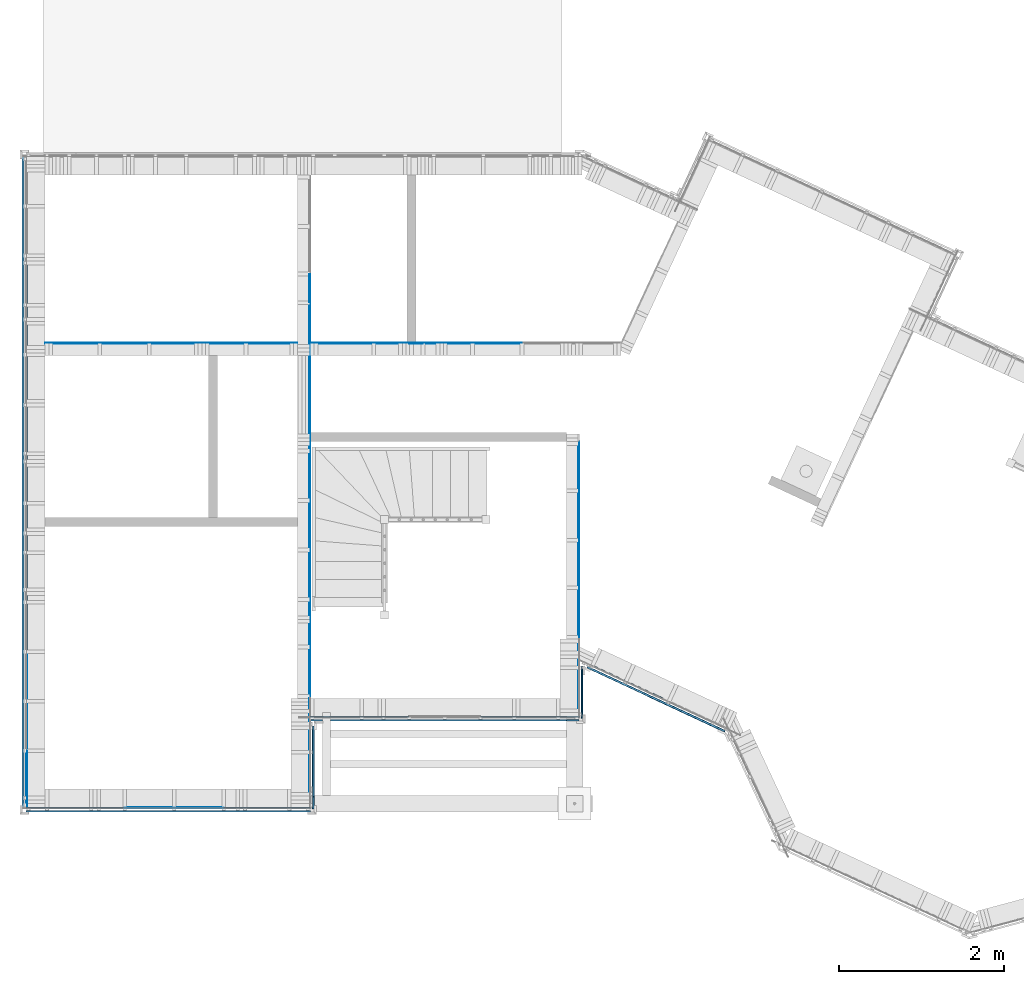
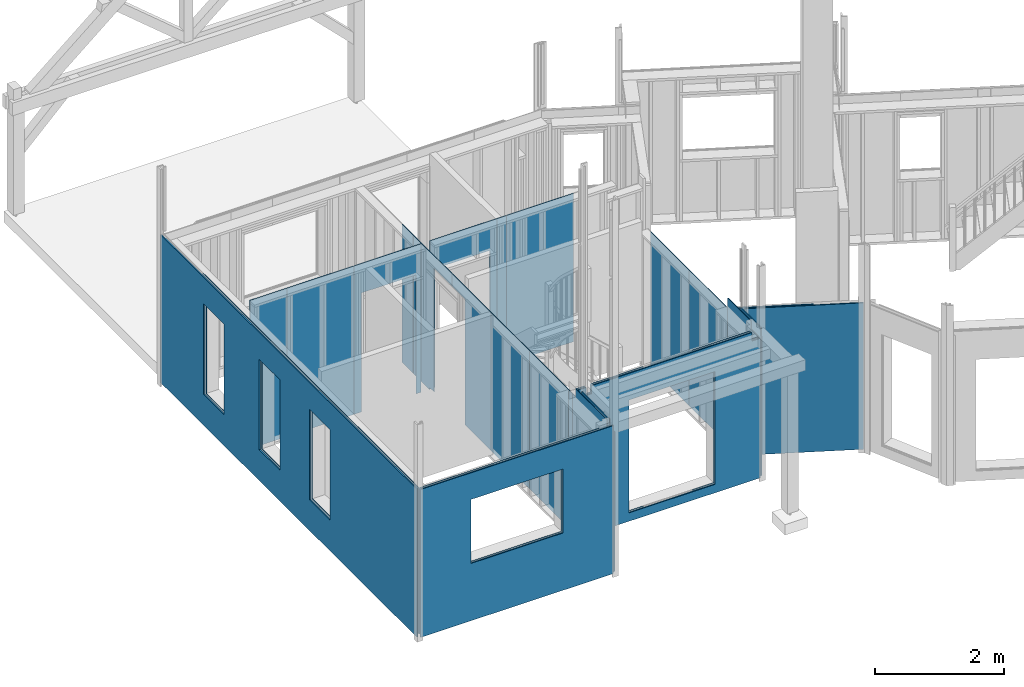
# One storey, part 23 of 34: 35 plates.
"""IFC2X3 building model written with IfcOpenShell, lengths in metres."""

from ifc_helpers import new_model, si_unit, direction, frame, origin_with_axes, place, context, subcontext, project, spatial, faceted_brep, material, element, save


model = new_model("IFC2X3")

# Units and contexts
model_context = context("Model", 3, precision=1e-06, world=origin_with_axes(), true_north=direction((0.0, 1.0, 0.0)))
body_context = subcontext(model_context, "Body", "Model", "MODEL_VIEW")
ifc_project = project(units=[si_unit("LENGTHUNIT", "METRE"), si_unit("AREAUNIT", "SQUARE_METRE"), si_unit("VOLUMEUNIT", "CUBIC_METRE"), si_unit("PLANEANGLEUNIT", "RADIAN")], contexts=[model_context])

# Site, building, storey
site_placement = place(None, origin_with_axes())
site = spatial("IfcSite", under=ifc_project, at=site_placement, CompositionType="ELEMENT")
building_placement = place(site_placement, origin_with_axes())
building = spatial("IfcBuilding", under=site, at=building_placement, Name="Building 1", CompositionType="ELEMENT")
storey_placement = place(building_placement, origin_with_axes())
storey = spatial("IfcBuildingStorey", under=building, at=storey_placement, Name="Rez de chaussée", CompositionType="ELEMENT", Elevation=0.0)

# Plates
ifc_material_1 = material(Name="OSB")
plate_1_placement = place(storey_placement, frame((6.11, 1.1068281, 0.005), z_axis=(0.0, 1.0, 0.0), x_axis=(0.0, 0.0, 1.0)))
element("IfcPlate", 1, at=plate_1_placement, inside=storey, material=ifc_material_1, Name="Panneau de contreventement MFP", context=body_context, shape_type="Brep", body=[
    faceted_brep([(2.6, 0.442, -0.006), (2.6, 0.598, -0.006), (2.6, 0.598, 0.006), (2.6, 0.442, 0.006), (2.758, 0.442, 0.006), (2.758, 0.442, -0.006), (0.0, 0.598, -0.006), (0.0, 0.598, 0.006), (2.758, -0.598, -0.006), (2.255, -0.598, -0.006), (2.255, -0.2125624, -0.006), (0.124, -0.2125624, -0.006), (0.124, -0.598, -0.006), (0.0, -0.598, -0.006), (2.758, -0.598, 0.006), (2.255, -0.598, 0.006), (2.255, -0.2125624, 0.006), (0.0, -0.598, 0.006), (0.124, -0.598, 0.006), (0.124, -0.2125624, 0.006)], [[[0, 1, 2, 3]], [[3, 4, 5, 0]], [[2, 1, 6, 7]], [[1, 0, 5, 8, 9, 10, 11, 12, 13, 6]], [[5, 4, 14, 8]], [[9, 15, 16, 10]], [[13, 17, 7, 6]], [[15, 9, 8, 14]], [[3, 2, 7, 17, 18, 19, 16, 15, 14, 4]], [[18, 12, 11, 19]], [[12, 18, 17, 13]], [[11, 10, 16, 19]]]),
])
plate_2_placement = place(storey_placement, frame((0.006, 4.898, 0.005), z_axis=(-1.0, 0.0, 0.0), x_axis=(0.0, 0.0, 1.0)))
element("IfcPlate", 2, at=plate_2_placement, inside=storey, material=ifc_material_1, Name="Panneau de contreventement MFP", context=body_context, shape_type="Brep", body=[
    faceted_brep([(0.547, -0.598, -0.006), (0.547, -0.598, 0.006), (0.0, -0.598, 0.006), (0.0, -0.598, -0.006), (0.0, 0.598, 0.006), (0.0, 0.598, -0.006), (0.547, -0.030197, 0.006), (2.255, -0.030197, 0.006), (2.255, -0.598, 0.006), (2.758, -0.598, 0.006), (2.758, 0.598, 0.006), (0.547, -0.030197, -0.006), (2.758, 0.598, -0.006), (2.758, -0.598, -0.006), (2.255, -0.598, -0.006), (2.255, -0.030197, -0.006)], [[[0, 1, 2, 3]], [[3, 2, 4, 5]], [[2, 1, 6, 7, 8, 9, 10, 4]], [[1, 0, 11, 6]], [[0, 3, 5, 12, 13, 14, 15, 11]], [[8, 14, 13, 9]], [[14, 8, 7, 15]], [[9, 13, 12, 10]], [[7, 6, 11, 15]], [[5, 4, 10, 12]]]),
])
ifc_material_2 = material(Name="Mélèze")
plate_3_placement = place(storey_placement, frame((-0.0355, 3.954, -0.03), z_axis=(-1.0, 0.0, 0.0), x_axis=(0.0, 0.0, 1.0)))
element("IfcPlate", 3, at=plate_3_placement, inside=storey, material=ifc_material_2, Name="Bardage", context=body_context, shape_type="Brep", body=[
    faceted_brep([(0.0, 3.962, 0.0105), (0.0, -3.962, 0.0105), (2.793, -3.962, 0.0105), (2.793, 3.962, 0.0105), (2.29, 1.9941735, 0.0105), (0.582, 1.9941735, 0.0105), (0.582, 2.6341735, 0.0105), (2.29, 2.6341735, 0.0105), (2.29, 0.2738031, 0.0105), (0.582, 0.2738031, 0.0105), (0.582, 0.9138031, 0.0105), (2.29, 0.9138031, 0.0105), (2.29, -1.2839436, 0.0105), (0.582, -1.2839436, 0.0105), (0.582, -0.6439436, 0.0105), (2.29, -0.6439436, 0.0105), (2.793, -3.962, -0.0105), (2.793, 3.962, -0.0105), (0.0, -3.962, -0.0105), (0.0, 3.962, -0.0105), (0.582, 2.6341735, -0.0105), (0.582, 1.9941735, -0.0105), (2.29, 1.9941735, -0.0105), (2.29, 2.6341735, -0.0105), (0.582, 0.9138031, -0.0105), (0.582, 0.2738031, -0.0105), (2.29, 0.2738031, -0.0105), (2.29, 0.9138031, -0.0105), (0.582, -0.6439436, -0.0105), (0.582, -1.2839436, -0.0105), (2.29, -1.2839436, -0.0105), (2.29, -0.6439436, -0.0105)], [[[0, 1, 2, 3], [4, 5, 6, 7], [8, 9, 10, 11], [12, 13, 14, 15]], [[16, 17, 3, 2]], [[18, 19, 17, 16], [20, 21, 22, 23], [24, 25, 26, 27], [28, 29, 30, 31]], [[19, 0, 3, 17]], [[7, 6, 20, 23]], [[4, 7, 23, 22]], [[5, 4, 22, 21]], [[6, 5, 21, 20]], [[11, 10, 24, 27]], [[8, 11, 27, 26]], [[9, 8, 26, 25]], [[10, 9, 25, 24]], [[15, 14, 28, 31]], [[12, 15, 31, 30]], [[13, 12, 30, 29]], [[14, 13, 29, 28]], [[19, 18, 1, 0]], [[1, 18, 16, 2]]]),
])
plate_4_placement = place(storey_placement, frame((4.046, 1.1068281, 0.005), z_axis=(0.0, 1.0, 0.0), x_axis=(0.0, 0.0, 1.0)))
element("IfcPlate", 4, at=plate_4_placement, inside=storey, material=ifc_material_1, Name="Panneau de contreventement MFP", context=body_context, shape_type="Brep", body=[
    faceted_brep([(2.608, -0.45, -0.006), (2.608, -0.354, -0.006), (2.608, -0.354, 0.006), (2.608, -0.45, 0.006), (2.758, -0.45, 0.006), (2.758, -0.354, 0.006), (2.758, 0.598, 0.006), (2.255, 0.598, 0.006), (2.255, 0.3114376, 0.006), (0.124, 0.3114376, 0.006), (0.124, 0.598, 0.006), (0.0, 0.598, 0.006), (0.0, -0.598, 0.006), (2.758, -0.598, 0.006), (2.758, -0.354, -0.006), (2.758, 0.598, -0.006), (2.758, -0.45, -0.006), (2.758, -0.598, -0.006), (0.0, -0.598, -0.006), (0.0, 0.598, -0.006), (0.124, 0.598, -0.006), (0.124, 0.3114376, -0.006), (2.255, 0.3114376, -0.006), (2.255, 0.598, -0.006)], [[[0, 1, 2, 3]], [[4, 3, 2, 5, 6, 7, 8, 9, 10, 11, 12, 13]], [[5, 14, 15, 6]], [[1, 14, 5, 2]], [[0, 16, 17, 18, 19, 20, 21, 22, 23, 15, 14, 1]], [[16, 4, 13, 17]], [[23, 7, 6, 15]], [[7, 23, 22, 8]], [[22, 21, 9, 8]], [[17, 13, 12, 18]], [[11, 19, 18, 12]], [[20, 10, 9, 21]], [[10, 20, 19, 11]], [[16, 0, 3, 4]]]),
])
plate_5_placement = place(storey_placement, frame((0.006, 6.098, 0.005), z_axis=(-1.0, 0.0, 0.0), x_axis=(0.0, 0.0, 1.0)))
element("IfcPlate", 5, at=plate_5_placement, inside=storey, material=ifc_material_1, Name="Panneau de contreventement MFP", context=body_context, shape_type="Brep", body=[
    faceted_brep([(0.0, -0.598, 0.006), (0.0, -0.598, -0.006), (2.758, -0.598, -0.006), (2.758, -0.598, 0.006), (2.758, 0.598, -0.006), (2.758, 0.598, 0.006), (0.0, 0.598, 0.006), (2.255, -0.1498265, 0.006), (0.547, -0.1498265, 0.006), (0.547, 0.4901735, 0.006), (2.255, 0.4901735, 0.006), (0.0, 0.598, -0.006), (2.255, -0.1498265, -0.006), (2.255, 0.4901735, -0.006), (0.547, 0.4901735, -0.006), (0.547, -0.1498265, -0.006)], [[[0, 1, 2, 3]], [[3, 2, 4, 5]], [[0, 3, 5, 6], [7, 8, 9, 10]], [[2, 1, 11, 4], [12, 13, 14, 15]], [[1, 0, 6, 11]], [[9, 8, 15, 14]], [[8, 7, 12, 15]], [[7, 10, 13, 12]], [[10, 9, 14, 13]], [[11, 6, 5, 4]]]),
])
plate_6_placement = place(storey_placement, frame((0.006, 3.698, 0.005), z_axis=(-1.0, 0.0, 0.0), x_axis=(0.0, 0.0, 1.0)))
element("IfcPlate", 6, at=plate_6_placement, inside=storey, material=ifc_material_1, Name="Panneau de contreventement MFP", context=body_context, shape_type="Brep", body=[
    faceted_brep([(2.255, -0.3879436, 0.006), (0.547, -0.3879436, 0.006), (0.547, -0.3879436, -0.006), (2.255, -0.3879436, -0.006), (0.547, 0.529803, 0.006), (2.255, 0.529803, 0.006), (2.255, 0.529803, -0.006), (0.547, 0.529803, -0.006), (2.758, -0.598, 0.006), (2.758, -0.598, -0.006), (2.758, 0.598, -0.006), (2.758, 0.598, 0.006), (2.255, 0.598, 0.006), (2.255, 0.598, -0.006), (2.255, -0.598, -0.006), (2.255, -0.598, 0.006), (0.547, -0.598, 0.006), (0.547, -0.598, -0.006), (0.547, 0.598, 0.006), (0.0, 0.598, 0.006), (0.0, -0.598, 0.006), (0.0, -0.598, -0.006), (0.0, 0.598, -0.006), (0.547, 0.598, -0.006)], [[[0, 1, 2, 3]], [[4, 5, 6, 7]], [[8, 9, 10, 11]], [[12, 13, 6, 5]], [[13, 12, 11, 10]], [[14, 15, 0, 3]], [[15, 14, 9, 8]], [[16, 17, 2, 1]], [[18, 19, 20, 16, 1, 0, 15, 8, 11, 12, 5, 4]], [[17, 16, 20, 21]], [[22, 23, 7, 6, 13, 10, 9, 14, 3, 2, 17, 21]], [[23, 18, 4, 7]], [[19, 22, 21, 20]], [[18, 23, 22, 19]]]),
])
plate_7_placement = place(storey_placement, frame((0.006, 2.498, 0.005), z_axis=(-1.0, 0.0, 0.0), x_axis=(0.0, 0.0, 1.0)))
element("IfcPlate", 7, at=plate_7_placement, inside=storey, material=ifc_material_1, Name="Panneau de contreventement MFP", context=body_context, shape_type="Brep", body=[
    faceted_brep([(0.547, 0.1720564, 0.006), (2.255, 0.1720564, 0.006), (2.255, 0.1720564, -0.006), (0.547, 0.1720564, -0.006), (2.255, 0.598, 0.006), (2.255, 0.598, -0.006), (2.758, 0.598, 0.006), (2.758, 0.598, -0.006), (2.758, -0.598, 0.006), (2.758, -0.598, -0.006), (0.547, 0.598, 0.006), (0.0, 0.598, 0.006), (0.0, -0.598, 0.006), (0.0, -0.598, -0.006), (0.0, 0.598, -0.006), (0.547, 0.598, -0.006)], [[[0, 1, 2, 3]], [[4, 5, 2, 1]], [[5, 4, 6, 7]], [[8, 9, 7, 6]], [[10, 11, 12, 8, 6, 4, 1, 0]], [[12, 13, 9, 8]], [[14, 15, 3, 2, 5, 7, 9, 13]], [[15, 10, 0, 3]], [[11, 14, 13, 12]], [[10, 15, 14, 11]]]),
])
plate_8_placement = place(storey_placement, frame((0.006, 1.298, 0.005), z_axis=(-1.0, 0.0, 0.0), x_axis=(0.0, 0.0, 1.0)))
element("IfcPlate", 8, at=plate_8_placement, inside=storey, material=ifc_material_1, Name="Panneau de contreventement MFP", context=body_context, shape_type="Brep", body=[
    faceted_brep([(0.0, -0.598, 0.006), (0.0, -0.598, -0.006), (2.758, -0.598, -0.006), (2.758, -0.598, 0.006), (2.758, 0.598, -0.006), (2.758, 0.598, 0.006), (0.0, 0.598, 0.006), (0.0, 0.598, -0.006)], [[[0, 1, 2, 3]], [[3, 2, 4, 5]], [[0, 3, 5, 6]], [[2, 1, 7, 4]], [[1, 0, 6, 7]], [[7, 6, 5, 4]]]),
])
plate_9_placement = place(storey_placement, frame((0.006, 0.354, 0.005), z_axis=(-1.0, 0.0, 0.0), x_axis=(0.0, 0.0, 1.0)))
element("IfcPlate", 9, at=plate_9_placement, inside=storey, material=ifc_material_1, Name="Panneau de contreventement MFP", context=body_context, shape_type="Brep", body=[
    faceted_brep([(2.758, 0.342, -0.006), (2.758, 0.342, 0.006), (2.758, -0.342, 0.006), (2.758, -0.342, -0.006), (0.0, -0.342, 0.006), (0.0, -0.342, -0.006), (0.0, 0.342, 0.006), (0.0, 0.342, -0.006)], [[[0, 1, 2, 3]], [[3, 2, 4, 5]], [[6, 7, 5, 4]], [[7, 0, 3, 5]], [[1, 6, 4, 2]], [[7, 6, 1, 0]]]),
])
plate_10_placement = place(storey_placement, frame((3.442, 1.2724141, 0.045), z_axis=(1.0, 0.0, 0.0), x_axis=(0.0, 0.0, 1.0)))
element("IfcPlate", 10, at=plate_10_placement, inside=storey, material=ifc_material_1, Name="Panneau de contreventement MFP", context=body_context, shape_type="Brep", body=[
    faceted_brep([(2.568, -0.0604141, -0.006), (2.568, 0.0604141, -0.006), (2.568, 0.0604141, 0.006), (2.568, -0.0604141, 0.006), (0.0, -0.0604141, -0.006), (0.0, 0.0604141, -0.006), (0.0, -0.0604141, 0.006), (0.0, 0.0604141, 0.006)], [[[0, 1, 2, 3]], [[1, 0, 4, 5]], [[0, 3, 6, 4]], [[3, 2, 7, 6]], [[7, 5, 4, 6]], [[2, 1, 5, 7]]]),
])
plate_11_placement = place(storey_placement, frame((0.5615, 5.6412176, 0.005), z_axis=(0.0, 1.0, 0.0), x_axis=(0.0, 0.0, 1.0)))
element("IfcPlate", 11, at=plate_11_placement, inside=storey, material=ifc_material_1, Name="Panneau de contreventement MFP", context=body_context, shape_type="Brep", body=[
    faceted_brep([(0.0, 0.3295, -0.006), (0.0, 0.3295, 0.006), (2.8, 0.3295, 0.006), (2.8, 0.3295, -0.006), (0.0, -0.3295, 0.006), (2.8, -0.3295, 0.006), (0.0, -0.3295, -0.006), (2.8, -0.3295, -0.006)], [[[0, 1, 2, 3]], [[2, 1, 4, 5]], [[1, 0, 6, 4]], [[0, 3, 7, 6]], [[3, 2, 5, 7]], [[7, 5, 4, 6]]]),
])
plate_12_placement = place(storey_placement, frame((4.046, 5.6412176, 0.005), z_axis=(0.0, 1.0, 0.0), x_axis=(0.0, 0.0, 1.0)))
element("IfcPlate", 12, at=plate_12_placement, inside=storey, material=ifc_material_1, Name="Panneau de contreventement MFP", context=body_context, shape_type="Brep", body=[
    faceted_brep([(2.8, -0.598, -0.006), (2.8, -0.598, 0.006), (0.0, -0.598, 0.006), (0.0, -0.598, -0.006), (0.0, -0.508, 0.006), (0.0, -0.508, -0.006), (2.245, -0.508, 0.006), (2.245, -0.508, -0.006), (2.8, 0.598, 0.006), (0.0, 0.598, 0.006), (0.0, 0.472, 0.006), (2.245, 0.472, 0.006), (2.8, 0.598, -0.006), (0.0, 0.598, -0.006), (2.245, 0.472, -0.006), (0.0, 0.472, -0.006)], [[[0, 1, 2, 3]], [[4, 5, 3, 2]], [[5, 4, 6, 7]], [[8, 9, 10, 11, 6, 4, 2, 1]], [[12, 8, 1, 0]], [[13, 12, 0, 3, 5, 7, 14, 15]], [[14, 7, 6, 11]], [[9, 8, 12, 13]], [[9, 13, 15, 10]], [[10, 15, 14, 11]]]),
])
plate_13_placement = place(storey_placement, frame((3.442, 4.3308281, 0.005), z_axis=(1.0, 0.0, 0.0), x_axis=(0.0, 0.0, 1.0)))
element("IfcPlate", 13, at=plate_13_placement, inside=storey, material=ifc_material_1, Name="Panneau de contreventement MFP", context=body_context, shape_type="Brep", body=[
    faceted_brep([(2.608, -0.598, -0.006), (2.373, -0.598, -0.006), (2.373, -0.2041719, -0.006), (0.0, -0.2041719, -0.006), (0.0, 0.598, -0.006), (2.608, 0.598, -0.006), (0.0, -0.2041719, 0.006), (2.373, -0.2041719, 0.006), (2.373, -0.598, 0.006), (2.608, -0.598, 0.006), (2.608, 0.598, 0.006), (0.0, 0.598, 0.006)], [[[0, 1, 2, 3, 4, 5]], [[6, 3, 2, 7]], [[8, 9, 10, 11, 6, 7]], [[8, 1, 0, 9]], [[1, 8, 7, 2]], [[9, 0, 5, 10]], [[4, 11, 10, 5]], [[11, 4, 3, 6]]]),
])
plate_14_placement = place(storey_placement, frame((1.798, 0.006, 2.26), z_axis=(0.0, -1.0, 0.0), x_axis=(0.0, 0.0, 1.0)))
element("IfcPlate", 14, at=plate_14_placement, inside=storey, material=ifc_material_1, Name="Panneau de contreventement MFP", context=body_context, shape_type="Brep", body=[
    faceted_brep([(0.0, -0.598, -0.006), (0.0, -0.598, 0.006), (0.0, 0.598, 0.006), (0.0, 0.598, -0.006), (0.503, -0.598, 0.006), (0.503, 0.598, 0.006), (0.503, 0.598, -0.006), (0.503, -0.598, -0.006)], [[[0, 1, 2, 3]], [[1, 4, 5, 2]], [[3, 2, 5, 6]], [[7, 0, 3, 6]], [[4, 7, 6, 5]], [[1, 0, 7, 4]]]),
])
plate_15_placement = place(storey_placement, frame((1.724, -0.0355, -0.03), z_axis=(0.0, -1.0, 0.0), x_axis=(0.0, 0.0, 1.0)))
element("IfcPlate", 15, at=plate_15_placement, inside=storey, material=ifc_material_2, Name="Bardage", context=body_context, shape_type="Brep", body=[
    faceted_brep([(1.082, -0.82, 0.0105), (2.29, -0.82, 0.0105), (2.29, -0.82, -0.0105), (1.082, -0.82, -0.0105), (1.082, 0.82, 0.0105), (1.082, 0.82, -0.0105), (2.29, 0.82, 0.0105), (2.29, 0.82, -0.0105), (0.0, -1.724, 0.0105), (0.0, -1.724, -0.0105), (2.793, -1.724, -0.0105), (2.793, -1.724, 0.0105), (0.0, 1.724, 0.0105), (0.0, 1.724, -0.0105), (2.793, 1.724, 0.0105), (2.793, 1.724, -0.0105)], [[[0, 1, 2, 3]], [[4, 0, 3, 5]], [[6, 4, 5, 7]], [[1, 6, 7, 2]], [[8, 9, 10, 11]], [[12, 13, 9, 8]], [[12, 8, 11, 14], [4, 6, 1, 0]], [[13, 12, 14, 15]], [[15, 14, 11, 10]], [[9, 13, 15, 10], [2, 7, 5, 3]]]),
])
plate_16_placement = place(storey_placement, frame((6.7435, 1.4080203, -0.03), z_axis=(1.0, 0.0, 0.0), x_axis=(0.0, 0.0, 1.0)))
element("IfcPlate", 16, at=plate_16_placement, inside=storey, material=ifc_material_2, Name="Bardage", context=body_context, shape_type="Brep", body=[
    faceted_brep([(2.635, 0.3041922, 0.0105), (2.793, 0.3041922, 0.0105), (2.793, 0.3041922, -0.0105), (2.635, 0.3041922, -0.0105), (2.635, 0.3151922, 0.0105), (0.0, 0.3151922, 0.0105), (0.0, -0.3151922, 0.0105), (2.793, -0.3151922, 0.0105), (2.635, 0.3151922, -0.0105), (0.0, 0.3151922, -0.0105), (2.793, -0.3151922, -0.0105), (0.0, -0.3151922, -0.0105)], [[[0, 1, 2, 3]], [[1, 0, 4, 5, 6, 7]], [[4, 8, 9, 5]], [[8, 4, 0, 3]], [[3, 2, 10, 11, 9, 8]], [[2, 1, 7, 10]], [[9, 11, 6, 5]], [[10, 7, 6, 11]]]),
])
plate_17_placement = place(storey_placement, frame((1.798, 0.006, 0.005), z_axis=(0.0, -1.0, 0.0), x_axis=(0.0, 0.0, 1.0)))
element("IfcPlate", 17, at=plate_17_placement, inside=storey, material=ifc_material_1, Name="Panneau de contreventement MFP", context=body_context, shape_type="Brep", body=[
    faceted_brep([(1.047, -0.598, -0.006), (1.047, -0.598, 0.006), (0.0, -0.598, 0.006), (0.0, -0.598, -0.006), (0.0, 0.598, -0.006), (1.047, 0.598, -0.006), (0.0, 0.598, 0.006), (1.047, 0.598, 0.006)], [[[0, 1, 2, 3]], [[0, 3, 4, 5]], [[3, 2, 6, 4]], [[7, 5, 4, 6]], [[1, 0, 5, 7]], [[2, 1, 7, 6]]]),
])
plate_18_placement = place(storey_placement, frame((3.4835, 0.4939141, -0.03), z_axis=(1.0, 0.0, 0.0), x_axis=(0.0, 0.0, 1.0)))
element("IfcPlate", 18, at=plate_18_placement, inside=storey, material=ifc_material_2, Name="Bardage", context=body_context, shape_type="Brep", body=[
    faceted_brep([(2.793, 0.3529141, 0.0105), (2.635, 0.3529141, 0.0105), (2.635, 0.5019141, 0.0105), (0.0, 0.5019141, 0.0105), (0.0, -0.5019141, 0.0105), (2.793, -0.5019141, 0.0105), (0.0, 0.5019141, -0.0105), (0.0, -0.5019141, -0.0105), (2.635, 0.3529141, -0.0105), (2.793, 0.3529141, -0.0105), (2.793, -0.5019141, -0.0105), (2.635, 0.5019141, -0.0105)], [[[0, 1, 2, 3, 4, 5]], [[6, 7, 4, 3]], [[8, 9, 10, 7, 6, 11]], [[9, 0, 5, 10]], [[4, 7, 10, 5]], [[9, 8, 1, 0]], [[8, 11, 2, 1]], [[2, 11, 6, 3]]]),
])
plate_19_placement = place(storey_placement, frame((5.4151297, 5.6412176, 0.005), z_axis=(0.0, 1.0, 0.0), x_axis=(0.0, 0.0, 1.0)))
element("IfcPlate", 19, at=plate_19_placement, inside=storey, material=ifc_material_1, Name="Panneau de contreventement MFP", context=body_context, shape_type="Brep", body=[
    faceted_brep([(2.8, -0.598, 0.006), (2.8, -0.598, -0.006), (2.8, 0.598, -0.006), (2.8, 0.598, 0.006), (0.0, -0.598, 0.006), (0.0, 0.598, 0.006), (0.0, 0.598, -0.006), (0.0, -0.598, -0.006)], [[[0, 1, 2, 3]], [[4, 0, 3, 5]], [[6, 5, 3, 2]], [[7, 4, 5, 6]], [[1, 7, 6, 2]], [[1, 0, 4, 7]]]),
])
plate_20_placement = place(storey_placement, frame((4.7305648, 5.6412176, 0.005), z_axis=(0.0, 1.0, 0.0), x_axis=(0.0, 0.0, 1.0)))
element("IfcPlate", 20, at=plate_20_placement, inside=storey, material=ifc_material_1, Name="Panneau de contreventement MFP", context=body_context, shape_type="Brep", body=[
    faceted_brep([(2.8, 0.0825648, -0.006), (2.8, 0.0825648, 0.006), (2.8, -0.0825648, 0.006), (2.8, -0.0825648, -0.006), (0.0, 0.0825648, 0.006), (0.0, 0.0825648, -0.006), (0.0, -0.0825648, -0.006), (0.0, -0.0825648, 0.006)], [[[0, 1, 2, 3]], [[4, 5, 6, 7]], [[3, 6, 5, 0]], [[2, 7, 6, 3]], [[1, 4, 7, 2]], [[0, 5, 4, 1]]]),
])
plate_21_placement = place(storey_placement, frame((3.442, 0.61, 0.005), z_axis=(1.0, 0.0, 0.0), x_axis=(0.0, 0.0, 1.0)))
element("IfcPlate", 21, at=plate_21_placement, inside=storey, material=ifc_material_1, Name="Panneau de contreventement MFP", context=body_context, shape_type="Brep", body=[
    faceted_brep([(2.608, -0.598, -0.006), (2.608, -0.5028281, -0.006), (2.608, -0.5028281, 0.006), (2.608, -0.598, 0.006), (2.758, -0.5028281, -0.006), (2.758, -0.5028281, 0.006), (0.04, -0.598, 0.006), (0.04, -0.598, -0.006), (2.758, 0.469, 0.006), (2.608, 0.469, 0.006), (2.608, 0.598, 0.006), (0.0, 0.598, 0.006), (0.0, -0.5028281, 0.006), (0.04, -0.5028281, 0.006), (2.758, 0.469, -0.006), (2.608, 0.469, -0.006), (2.608, 0.598, -0.006), (0.04, -0.5028281, -0.006), (0.0, -0.5028281, -0.006), (0.0, 0.598, -0.006)], [[[0, 1, 2, 3]], [[1, 4, 5, 2]], [[0, 3, 6, 7]], [[3, 2, 5, 8, 9, 10, 11, 12, 13, 6]], [[5, 4, 14, 8]], [[15, 16, 10, 9]], [[7, 6, 13, 17]], [[13, 12, 18, 17]], [[10, 16, 19, 11]], [[12, 11, 19, 18]], [[1, 0, 7, 17, 18, 19, 16, 15, 14, 4]], [[14, 15, 9, 8]]]),
])
plate_22_placement = place(storey_placement, frame((6.702, 1.5821512, 0.005), z_axis=(1.0, 0.0, 0.0), x_axis=(0.0, 0.0, 1.0)))
element("IfcPlate", 22, at=plate_22_placement, inside=storey, material=ifc_material_1, Name="Panneau de contreventement MFP", context=body_context, shape_type="Brep", body=[
    faceted_brep([(0.0, -0.2265073, -0.006), (0.04, -0.2265073, -0.006), (0.04, -0.2265073, 0.006), (0.0, -0.2265073, 0.006), (0.0, 0.4693231, 0.006), (0.0, 0.4693231, -0.006), (0.04, -0.4693231, 0.006), (0.04, -0.4693231, -0.006), (2.758, -0.4693231, -0.006), (2.758, -0.4693231, 0.006), (2.608, 0.4693231, -0.006), (2.608, 0.2493231, -0.006), (2.758, 0.2493231, -0.006), (2.758, 0.2493231, 0.006), (2.608, 0.2493231, 0.006), (2.608, 0.4693231, 0.006)], [[[0, 1, 2, 3]], [[0, 3, 4, 5]], [[6, 7, 8, 9]], [[6, 2, 1, 7]], [[1, 0, 5, 10, 11, 12, 8, 7]], [[2, 6, 9, 13, 14, 15, 4, 3]], [[11, 10, 15, 14]], [[12, 11, 14, 13]], [[12, 13, 9, 8]], [[4, 15, 10, 5]]]),
])
plate_23_placement = place(storey_placement, frame((5.07925, 1.0653281, -0.03), z_axis=(-1.0, 0.0, 0.0), x_axis=(0.0, 0.0, 1.0)))
element("IfcPlate", 23, at=plate_23_placement, inside=storey, material=ifc_material_2, Name="Bardage", context=body_context, shape_type="Brep", body=[
    faceted_brep([(2.643, -0.0105, 1.48325), (2.643, -0.0105, 1.38725), (2.643, 0.0105, 1.38725), (2.643, 0.0105, 1.48325), (2.793, 0.0105, 1.48325), (2.793, 0.0105, 1.38725), (2.793, 0.0105, -1.47275), (2.635, 0.0105, -1.47275), (2.635, 0.0105, -1.62875), (0.0, 0.0105, -1.62875), (0.0, 0.0105, 1.62875), (2.793, 0.0105, 1.62875), (2.29, 0.0105, -0.8181876), (2.29, 0.0105, 0.7218124), (0.159, 0.0105, 0.7218124), (0.159, 0.0105, -0.8181876), (2.793, -0.0105, 1.38725), (2.793, -0.0105, -1.47275), (2.793, -0.0105, 1.48325), (2.793, -0.0105, 1.62875), (0.0, -0.0105, 1.62875), (0.0, -0.0105, -1.62875), (2.635, -0.0105, -1.62875), (2.635, -0.0105, -1.47275), (2.29, -0.0105, -0.8181876), (0.159, -0.0105, -0.8181876), (0.159, -0.0105, 0.7218124), (2.29, -0.0105, 0.7218124)], [[[0, 1, 2, 3]], [[4, 3, 2, 5, 6, 7, 8, 9, 10, 11], [12, 13, 14, 15]], [[5, 16, 17, 6]], [[1, 16, 5, 2]], [[0, 18, 19, 20, 21, 22, 23, 17, 16, 1], [24, 25, 26, 27]], [[18, 4, 11, 19]], [[18, 0, 3, 4]], [[17, 23, 7, 6]], [[23, 22, 8, 7]], [[14, 13, 27, 26]], [[15, 14, 26, 25]], [[12, 15, 25, 24]], [[13, 12, 24, 27]], [[8, 22, 21, 9]], [[21, 20, 10, 9]], [[10, 20, 19, 11]]]),
])
plate_24_placement = place(storey_placement, frame((3.442, 3.1308281, 0.005), z_axis=(1.0, 0.0, 0.0), x_axis=(0.0, 0.0, 1.0)))
element("IfcPlate", 24, at=plate_24_placement, inside=storey, material=ifc_material_1, Name="Panneau de contreventement MFP", context=body_context, shape_type="Brep", body=[
    faceted_brep([(2.608, -0.598, 0.006), (2.608, -0.598, -0.006), (2.608, 0.598, -0.006), (2.608, 0.598, 0.006), (0.0, -0.598, 0.006), (0.0, 0.598, 0.006), (0.0, 0.598, -0.006), (0.0, -0.598, -0.006)], [[[0, 1, 2, 3]], [[4, 0, 3, 5]], [[6, 5, 3, 2]], [[7, 4, 5, 6]], [[1, 7, 6, 2]], [[1, 0, 4, 7]]]),
])
plate_25_placement = place(storey_placement, frame((3.442, 6.3044141, 0.005), z_axis=(1.0, 0.0, 0.0), x_axis=(0.0, 0.0, 1.0)))
element("IfcPlate", 25, at=plate_25_placement, inside=storey, material=ifc_material_1, Name="Panneau de contreventement MFP", context=body_context, shape_type="Brep", body=[
    faceted_brep([(0.0, 0.171586, -0.006), (0.0, 0.171586, 0.006), (2.608, 0.171586, 0.006), (2.608, 0.171586, -0.006), (2.608, -0.171586, 0.006), (2.608, -0.171586, -0.006), (0.0, -0.171586, 0.006), (0.0, -0.171586, -0.006)], [[[0, 1, 2, 3]], [[3, 2, 4, 5]], [[2, 1, 6, 4]], [[1, 0, 7, 6]], [[0, 3, 5, 7]], [[5, 4, 6, 7]]]),
])
plate_26_placement = place(storey_placement, frame((3.442, 1.9308281, 0.005), z_axis=(1.0, 0.0, 0.0), x_axis=(0.0, 0.0, 1.0)))
element("IfcPlate", 26, at=plate_26_placement, inside=storey, material=ifc_material_1, Name="Panneau de contreventement MFP", context=body_context, shape_type="Brep", body=[
    faceted_brep([(2.608, -0.598, 0.006), (2.608, -0.598, -0.006), (2.608, 0.598, -0.006), (2.608, 0.598, 0.006), (0.0, -0.598, 0.006), (0.0, 0.598, 0.006), (0.0, 0.598, -0.006), (0.0, -0.598, -0.006)], [[[0, 1, 2, 3]], [[4, 0, 3, 5]], [[6, 5, 3, 2]], [[7, 4, 5, 6]], [[1, 7, 6, 2]], [[1, 0, 4, 7]]]),
])
plate_27_placement = place(storey_placement, frame((3.442, 5.5308281, 0.005), z_axis=(1.0, 0.0, 0.0), x_axis=(0.0, 0.0, 1.0)))
element("IfcPlate", 27, at=plate_27_placement, inside=storey, material=ifc_material_1, Name="Panneau de contreventement MFP", context=body_context, shape_type="Brep", body=[
    faceted_brep([(0.0, -0.1043895, 0.006), (0.04, -0.1043895, 0.006), (0.04, -0.1043895, -0.006), (0.0, -0.1043895, -0.006), (0.04, 0.0406105, 0.006), (0.04, 0.0406105, -0.006), (0.0, -0.598, 0.006), (2.608, -0.598, 0.006), (2.608, 0.598, 0.006), (2.373, 0.598, 0.006), (2.373, 0.0406105, 0.006), (0.0, -0.598, -0.006), (2.373, 0.0406105, -0.006), (2.373, 0.598, -0.006), (2.608, 0.598, -0.006), (2.608, -0.598, -0.006)], [[[0, 1, 2, 3]], [[1, 4, 5, 2]], [[4, 1, 0, 6, 7, 8, 9, 10]], [[0, 3, 11, 6]], [[5, 4, 10, 12]], [[2, 5, 12, 13, 14, 15, 11, 3]], [[13, 9, 8, 14]], [[9, 13, 12, 10]], [[7, 15, 14, 8]], [[15, 7, 6, 11]]]),
])
plate_28_placement = place(storey_placement, frame((6.702, 3.8494744, 0.005), z_axis=(1.0, 0.0, 0.0), x_axis=(0.0, 0.0, 1.0)))
element("IfcPlate", 28, at=plate_28_placement, inside=storey, material=ifc_material_1, Name="Panneau de contreventement MFP", context=body_context, shape_type="Brep", body=[
    faceted_brep([(0.0, -0.598, 0.006), (2.56, -0.598, 0.006), (2.56, 0.598, 0.006), (0.0, 0.598, 0.006), (0.0, -0.598, -0.006), (0.0, 0.598, -0.006), (2.56, -0.598, -0.006), (2.56, 0.598, -0.006)], [[[0, 1, 2, 3]], [[4, 0, 3, 5]], [[6, 4, 5, 7]], [[5, 3, 2, 7]], [[1, 6, 7, 2]], [[6, 1, 0, 4]]]),
])
plate_29_placement = place(storey_placement, frame((0.598, 0.006, 0.005), z_axis=(0.0, -1.0, 0.0), x_axis=(0.0, 0.0, 1.0)))
element("IfcPlate", 29, at=plate_29_placement, inside=storey, material=ifc_material_1, Name="Panneau de contreventement MFP", context=body_context, shape_type="Brep", body=[
    faceted_brep([(2.255, -0.598, 0.006), (2.758, -0.598, 0.006), (2.758, 0.598, 0.006), (0.0, 0.598, 0.006), (0.0, -0.598, 0.006), (1.047, -0.598, 0.006), (1.047, -0.306, 0.006), (2.255, -0.306, 0.006), (1.047, -0.598, -0.006), (0.0, -0.598, -0.006), (0.0, 0.598, -0.006), (1.047, -0.306, -0.006), (2.255, -0.306, -0.006), (2.255, -0.598, -0.006), (2.758, 0.598, -0.006), (2.758, -0.598, -0.006)], [[[0, 1, 2, 3, 4, 5, 6, 7]], [[8, 5, 4, 9]], [[9, 4, 3, 10]], [[5, 8, 11, 6]], [[7, 6, 11, 12]], [[13, 0, 7, 12]], [[2, 14, 10, 3]], [[15, 13, 12, 11, 8, 9, 10, 14]], [[1, 15, 14, 2]], [[0, 13, 15, 1]]]),
])
plate_30_placement = place(storey_placement, frame((6.702, 2.6494744, 0.005), z_axis=(1.0, 0.0, 0.0), x_axis=(0.0, 0.0, 1.0)))
element("IfcPlate", 30, at=plate_30_placement, inside=storey, material=ifc_material_1, Name="Panneau de contreventement MFP", context=body_context, shape_type="Brep", body=[
    faceted_brep([(0.0, -0.598, 0.006), (2.56, -0.598, 0.006), (2.56, 0.598, 0.006), (0.0, 0.598, 0.006), (0.0, -0.598, -0.006), (0.0, 0.598, -0.006), (2.56, -0.598, -0.006), (2.56, 0.598, -0.006)], [[[0, 1, 2, 3]], [[4, 0, 3, 5]], [[6, 4, 5, 7]], [[5, 3, 2, 7]], [[1, 6, 7, 2]], [[6, 1, 0, 4]]]),
])
plate_31_placement = place(storey_placement, frame((2.924, 0.006, 0.005), z_axis=(0.0, -1.0, 0.0), x_axis=(0.0, 0.0, 1.0)))
element("IfcPlate", 31, at=plate_31_placement, inside=storey, material=ifc_material_1, Name="Panneau de contreventement MFP", context=body_context, shape_type="Brep", body=[
    faceted_brep([(2.608, -0.524, -0.006), (2.608, -0.524, 0.006), (0.0, -0.524, 0.006), (0.0, -0.524, -0.006), (2.608, -0.292, 0.006), (2.758, -0.292, 0.006), (2.758, 0.524, 0.006), (2.255, 0.524, 0.006), (2.255, 0.38, 0.006), (1.047, 0.38, 0.006), (1.047, 0.524, 0.006), (0.0, 0.524, 0.006), (2.608, -0.292, -0.006), (2.758, -0.292, -0.006), (0.0, 0.524, -0.006), (1.047, 0.524, -0.006), (1.047, 0.38, -0.006), (2.255, 0.38, -0.006), (2.255, 0.524, -0.006), (2.758, 0.524, -0.006)], [[[0, 1, 2, 3]], [[4, 5, 6, 7, 8, 9, 10, 11, 2, 1]], [[12, 13, 5, 4]], [[0, 12, 4, 1]], [[13, 12, 0, 3, 14, 15, 16, 17, 18, 19]], [[18, 7, 6, 19]], [[5, 13, 19, 6]], [[7, 18, 17, 8]], [[11, 14, 3, 2]], [[9, 8, 17, 16]], [[15, 10, 9, 16]], [[10, 15, 14, 11]]]),
])
plate_32_placement = place(storey_placement, frame((1.493, 5.6412176, 0.005), z_axis=(0.0, 1.0, 0.0), x_axis=(0.0, 0.0, 1.0)))
element("IfcPlate", 32, at=plate_32_placement, inside=storey, material=ifc_material_1, Name="Panneau de contreventement MFP", context=body_context, shape_type="Brep", body=[
    faceted_brep([(2.8, -0.598, 0.006), (2.8, -0.598, -0.006), (2.8, 0.598, -0.006), (2.8, 0.598, 0.006), (0.0, -0.598, 0.006), (0.0, 0.598, 0.006), (0.0, 0.598, -0.006), (0.0, -0.598, -0.006)], [[[0, 1, 2, 3]], [[4, 0, 3, 5]], [[6, 5, 3, 2]], [[7, 4, 5, 6]], [[1, 7, 6, 2]], [[1, 0, 4, 7]]]),
])
plate_33_placement = place(storey_placement, frame((2.693, 5.6412176, 0.005), z_axis=(0.0, 1.0, 0.0), x_axis=(0.0, 0.0, 1.0)))
element("IfcPlate", 33, at=plate_33_placement, inside=storey, material=ifc_material_1, Name="Panneau de contreventement MFP", context=body_context, shape_type="Brep", body=[
    faceted_brep([(2.8, 0.598, 0.006), (2.8, 0.598, -0.006), (0.0, 0.598, -0.006), (0.0, 0.598, 0.006), (2.8, -0.598, 0.006), (2.8, -0.598, -0.006), (0.0, 0.508, -0.006), (0.0, 0.508, 0.006), (2.245, -0.472, 0.006), (2.245, 0.508, 0.006), (2.245, 0.508, -0.006), (2.245, -0.472, -0.006), (0.0, -0.472, -0.006), (0.0, -0.472, 0.006), (0.0, -0.598, -0.006), (0.0, -0.598, 0.006)], [[[0, 1, 2, 3]], [[4, 5, 1, 0]], [[6, 7, 3, 2]], [[8, 9, 10, 11]], [[12, 13, 8, 11]], [[7, 6, 10, 9]], [[14, 15, 13, 12]], [[15, 4, 0, 3, 7, 9, 8, 13]], [[5, 14, 12, 11, 10, 6, 2, 1]], [[15, 14, 5, 4]]]),
])
plate_34_placement = place(storey_placement, frame((7.6405185, 1.3214075, -0.03), z_axis=(-0.4226183, -0.9063078, 0.0), x_axis=(0.0, 0.0, 1.0)))
element("IfcPlate", 34, at=plate_34_placement, inside=storey, material=ifc_material_2, Name="Bardage", context=body_context, shape_type="Brep", body=[
    faceted_brep([(2.765, 0.9180999, 0.0105), (2.765, -0.9180999, 0.0105), (2.765, -0.9180999, -0.0105), (2.765, 0.9180999, -0.0105), (0.0, -0.9180999, 0.0105), (0.0, -0.9180999, -0.0105), (0.0, 0.9180999, 0.0105), (0.0, 0.9180999, -0.0105)], [[[0, 1, 2, 3]], [[2, 1, 4, 5]], [[1, 0, 6, 4]], [[3, 2, 5, 7]], [[4, 6, 7, 5]], [[0, 3, 7, 6]]]),
])
plate_35_placement = place(storey_placement, frame((7.2523451, 1.548206, 0.005), z_axis=(-0.4226183, -0.9063078, 0.0), x_axis=(0.0, 0.0, 1.0)))
element("IfcPlate", 35, at=plate_35_placement, inside=storey, material=ifc_material_1, Name="Panneau de contreventement MFP", context=body_context, shape_type="Brep", body=[
    faceted_brep([(2.73, -0.598, 0.006), (2.73, -0.598, -0.006), (2.73, 0.598, -0.006), (2.73, 0.598, 0.006), (0.0, -0.598, -0.006), (0.0, 0.598, -0.006), (0.0, -0.598, 0.006), (0.0, 0.598, 0.006)], [[[0, 1, 2, 3]], [[2, 1, 4, 5]], [[1, 0, 6, 4]], [[4, 6, 7, 5]], [[0, 3, 7, 6]], [[3, 2, 5, 7]]]),
])

save(model, "model.ifc")
